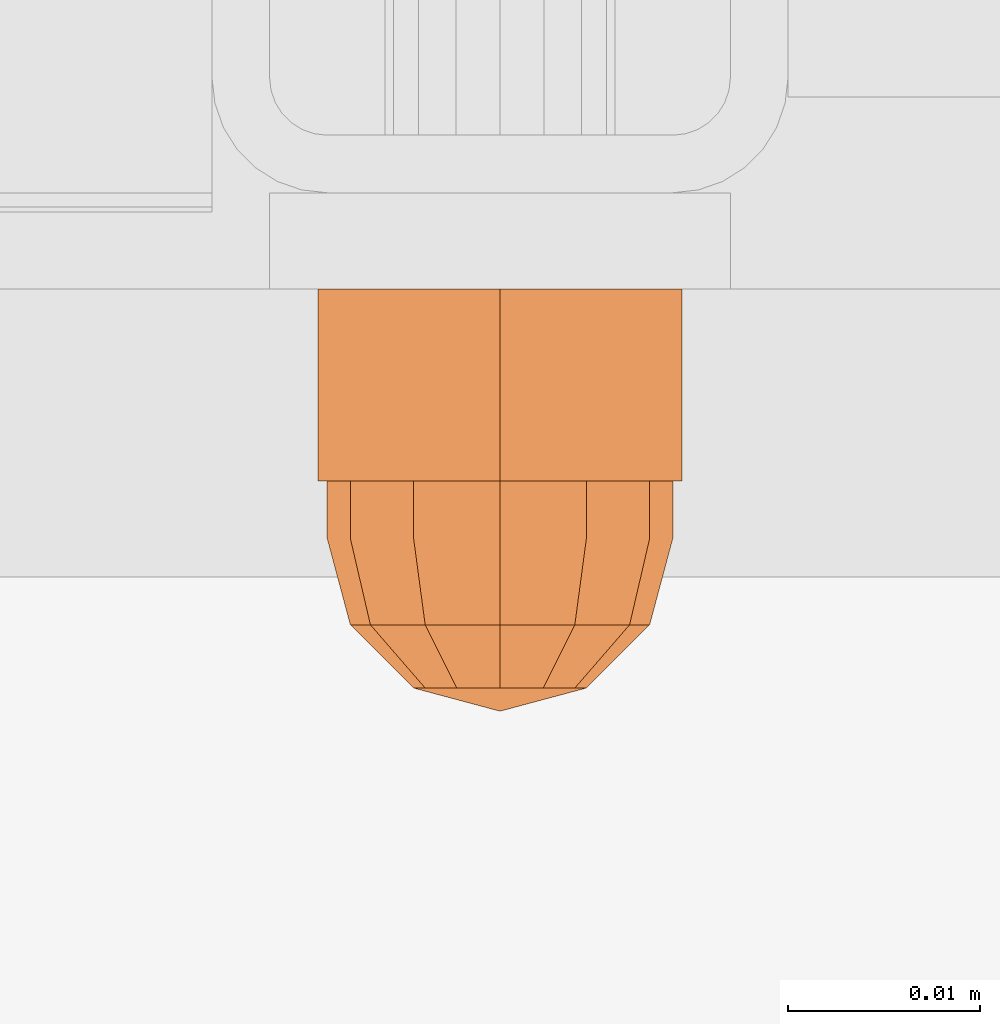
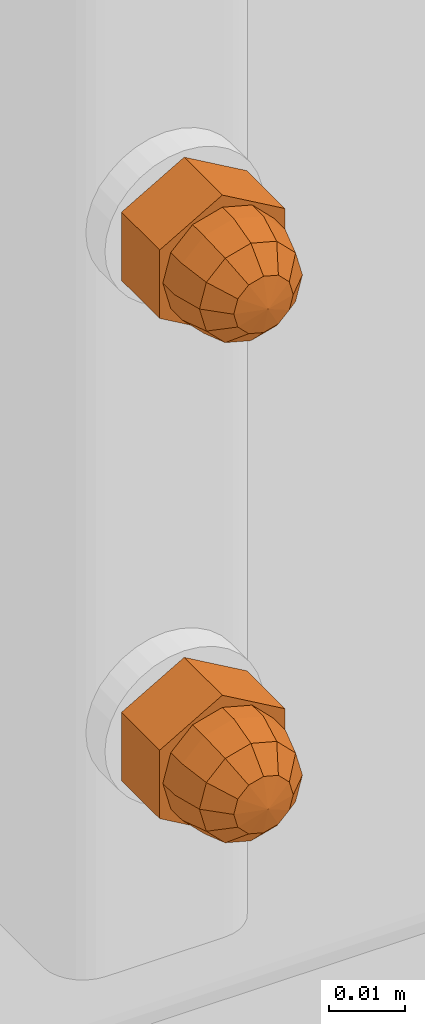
# One storey, part 104 of 162: 2 proxies.
"""IFC2X3 building model written with IfcOpenShell, lengths in millimetres."""

from ifc_helpers import new_model, entity, si_unit, converted_unit, origin_with_axes, place, context, project, spatial, faceted_brep, material, element, save


model = new_model("IFC2X3")

# Units and contexts
model_context = context("Model", 3, precision=1e-09, world=origin_with_axes())
ifc_project = project(units=[si_unit("LENGTHUNIT", "METRE", prefix="MILLI"), si_unit("AREAUNIT", "SQUARE_METRE"), si_unit("VOLUMEUNIT", "CUBIC_METRE"), converted_unit("PLANEANGLEUNIT", "DEGREE", entity("IfcPlaneAngleMeasure", 0.01745329), si_unit("PLANEANGLEUNIT", "RADIAN"), dimensions=[0, 0, 0, 0, 0, 0, 0])], contexts=[model_context])

# Site, building, storey
site_placement = place(None, origin_with_axes())
site = spatial("IfcSite", under=ifc_project, at=site_placement, Name="Hermannstra?e 1a, 60318 Frankfurt", CompositionType="ELEMENT")
building_placement = place(site_placement, origin_with_axes())
building = spatial("IfcBuilding", under=site, at=building_placement, Name="Struktur 1", CompositionType="ELEMENT")
storey_placement = place(building_placement, origin_with_axes())
storey = spatial("IfcBuildingStorey", under=building, at=storey_placement, Name="Default Storey", CompositionType="ELEMENT", Elevation=0.0)

# Proxies
ifc_material = material(Name="Kein")
proxy_1_placement = place(None, origin_with_axes())
element("IfcBuildingElementProxy", 1, at=proxy_1_placement, inside=storey, material=ifc_material, ObjectType="-", context=model_context, shape_type="Brep", body=[
    faceted_brep([(2597.30936482, 1490.609373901, 15176.999), (2597.30936482, 1480.609373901, 15176.999), (2598.113212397, 1480.609373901, 15173.999), (2598.113212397, 1490.609373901, 15173.999), (2600.30936482, 1480.609373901, 15171.802847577), (2600.30936482, 1490.609373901, 15171.802847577), (2598.113212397, 1490.609373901, 15179.999), (2598.113212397, 1480.609373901, 15179.999), (2593.829495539, 1490.609373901, 15182.472205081), (2603.30936482, 1490.609373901, 15187.945410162), (2612.7892341, 1490.609373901, 15182.472205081), (2612.7892341, 1490.609373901, 15171.525794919), (2603.30936482, 1490.609373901, 15166.052589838), (2593.829495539, 1490.609373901, 15171.525794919), (2600.30936482, 1490.609373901, 15182.195152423), (2603.30936482, 1490.609373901, 15170.999), (2606.30936482, 1490.609373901, 15171.802847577), (2608.505517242, 1490.609373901, 15173.999), (2609.30936482, 1490.609373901, 15176.999), (2608.505517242, 1490.609373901, 15179.999), (2606.30936482, 1490.609373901, 15182.195152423), (2603.30936482, 1490.609373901, 15182.999), (2603.30936482, 1480.609373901, 15187.945410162), (2593.829495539, 1480.609373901, 15182.472205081), (2593.829495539, 1480.609373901, 15171.525794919), (2603.30936482, 1480.609373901, 15166.052589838), (2612.7892341, 1480.609373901, 15171.525794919), (2612.7892341, 1480.609373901, 15182.472205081), (2600.30936482, 1480.609373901, 15182.195152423), (2603.30936482, 1480.609373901, 15182.999), (2606.30936482, 1480.609373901, 15182.195152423), (2608.505517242, 1480.609373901, 15179.999), (2609.30936482, 1480.609373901, 15176.999), (2608.505517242, 1480.609373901, 15173.999), (2606.30936482, 1480.609373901, 15171.802847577), (2603.30936482, 1480.609373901, 15170.999)], [[[0, 1, 2, 3]], [[3, 2, 4, 5]], [[1, 0, 6, 7]], [[8, 9, 10, 11, 12, 13], [14, 6, 0, 3, 5, 15, 16, 17, 18, 19, 20, 21]], [[22, 23, 24, 25, 26, 27], [1, 7, 28, 29, 30, 31, 32, 33, 34, 35, 4, 2]], [[7, 6, 14, 28]], [[24, 23, 8, 13]], [[5, 4, 35, 15]], [[13, 12, 25, 24]], [[28, 14, 21, 29]], [[23, 22, 9, 8]], [[15, 35, 34, 16]], [[12, 11, 26, 25]], [[29, 21, 20, 30]], [[22, 27, 10, 9]], [[16, 34, 33, 17]], [[27, 26, 11, 10]], [[30, 20, 19, 31]], [[17, 33, 32, 18]], [[31, 19, 18, 32]]]),
    faceted_brep([(2603.30936482, 1480.609373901, 15185.999), (2603.30936482, 1477.609373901, 15185.999), (2607.80936482, 1477.609373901, 15184.793228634), (2607.80936482, 1480.609373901, 15184.793228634), (2598.80936482, 1480.609373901, 15184.793228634), (2598.80936482, 1477.609373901, 15184.793228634), (2595.515136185, 1477.609373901, 15172.499), (2598.80936482, 1477.609373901, 15169.204771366), (2603.30936482, 1477.609373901, 15167.999), (2607.80936482, 1477.609373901, 15169.204771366), (2611.103593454, 1477.609373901, 15172.499), (2612.30936482, 1477.609373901, 15176.999), (2611.103593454, 1477.609373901, 15181.499), (2595.515136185, 1477.609373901, 15181.499), (2594.30936482, 1477.609373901, 15176.999), (2611.103593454, 1480.609373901, 15172.499), (2607.80936482, 1480.609373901, 15169.204771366), (2603.30936482, 1480.609373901, 15167.999), (2598.80936482, 1480.609373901, 15169.204771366), (2595.515136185, 1480.609373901, 15172.499), (2594.30936482, 1480.609373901, 15176.999), (2595.515136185, 1480.609373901, 15181.499), (2611.103593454, 1480.609373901, 15181.499), (2612.30936482, 1480.609373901, 15176.999)], [[[0, 1, 2, 3]], [[1, 0, 4, 5]], [[6, 7, 8, 9, 10, 11, 12, 2, 1, 5, 13, 14]], [[15, 16, 17, 18, 19, 20, 21, 4, 0, 3, 22, 23]], [[3, 2, 12, 22]], [[5, 4, 21, 13]], [[22, 12, 11, 23]], [[13, 21, 20, 14]], [[7, 18, 17, 8]], [[19, 6, 14, 20]], [[18, 7, 6, 19]], [[23, 11, 10, 15]], [[8, 17, 16, 9]], [[15, 10, 9, 16]]]),
    faceted_brep([(2595.515136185, 1477.609373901, 15181.499), (2596.55936482, 1473.109373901, 15180.896114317), (2599.412250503, 1473.109373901, 15183.749), (2598.80936482, 1477.609373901, 15184.793228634), (2611.103593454, 1477.609373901, 15172.499), (2607.80936482, 1477.609373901, 15169.204771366), (2603.30936482, 1477.609373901, 15167.999), (2598.80936482, 1477.609373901, 15169.204771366), (2595.515136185, 1477.609373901, 15172.499), (2594.30936482, 1477.609373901, 15176.999), (2603.30936482, 1477.609373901, 15185.999), (2607.80936482, 1477.609373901, 15184.793228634), (2611.103593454, 1477.609373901, 15181.499), (2612.30936482, 1477.609373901, 15176.999), (2603.30936482, 1473.109373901, 15184.793228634), (2595.515136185, 1473.109373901, 15176.999), (2598.80936482, 1469.815145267, 15176.999), (2599.412250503, 1469.815145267, 15179.249), (2607.206479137, 1473.109373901, 15183.749), (2601.05936482, 1469.815145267, 15180.896114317), (2596.55936482, 1473.109373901, 15173.101885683), (2599.412250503, 1469.815145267, 15174.749), (2603.30936482, 1469.815145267, 15181.499), (2603.30936482, 1468.609373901, 15176.999), (2599.412250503, 1473.109373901, 15170.249), (2601.05936482, 1469.815145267, 15173.101885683), (2603.30936482, 1473.109373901, 15169.204771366), (2610.05936482, 1473.109373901, 15180.896114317), (2605.55936482, 1469.815145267, 15180.896114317), (2603.30936482, 1469.815145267, 15172.499), (2607.206479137, 1473.109373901, 15170.249), (2605.55936482, 1469.815145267, 15173.101885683), (2611.103593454, 1473.109373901, 15176.999), (2607.206479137, 1469.815145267, 15179.249), (2610.05936482, 1473.109373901, 15173.101885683), (2607.206479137, 1469.815145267, 15174.749), (2607.80936482, 1469.815145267, 15176.999)], [[[0, 1, 2, 3]], [[4, 5, 6, 7, 8, 9, 0, 3, 10, 11, 12, 13]], [[3, 2, 14, 10]], [[15, 16, 17, 1]], [[1, 0, 9, 15]], [[10, 14, 18, 11]], [[1, 17, 19, 2]], [[16, 15, 20, 21]], [[2, 19, 22, 14]], [[23, 17, 16]], [[24, 25, 21, 20]], [[23, 16, 21]], [[24, 7, 6, 26]], [[20, 8, 7, 24]], [[15, 9, 8, 20]], [[11, 18, 27, 12]], [[14, 22, 28, 18]], [[23, 19, 17]], [[26, 29, 25, 24]], [[23, 21, 25]], [[23, 22, 19]], [[26, 6, 5, 30]], [[29, 26, 30, 31]], [[23, 25, 29]], [[12, 27, 32, 13]], [[18, 28, 33, 27]], [[23, 28, 22]], [[23, 29, 31]], [[23, 33, 28]], [[30, 5, 4, 34]], [[31, 30, 34, 35]], [[23, 31, 35]], [[13, 32, 34, 4]], [[27, 33, 36, 32]], [[23, 36, 33]], [[23, 35, 36]], [[35, 34, 32, 36]]]),
])
proxy_2_placement = place(None, origin_with_axes())
element("IfcBuildingElementProxy", 2, at=proxy_2_placement, inside=storey, material=ifc_material, ObjectType="-", context=model_context, shape_type="Brep", body=[
    faceted_brep([(2597.30936482, 1490.609373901, 15096.999), (2597.30936482, 1480.609373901, 15096.999), (2598.113212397, 1480.609373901, 15093.999), (2598.113212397, 1490.609373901, 15093.999), (2600.30936482, 1480.609373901, 15091.802847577), (2600.30936482, 1490.609373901, 15091.802847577), (2598.113212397, 1490.609373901, 15099.999), (2598.113212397, 1480.609373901, 15099.999), (2593.829495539, 1490.609373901, 15102.472205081), (2603.30936482, 1490.609373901, 15107.945410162), (2612.7892341, 1490.609373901, 15102.472205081), (2612.7892341, 1490.609373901, 15091.525794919), (2603.30936482, 1490.609373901, 15086.052589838), (2593.829495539, 1490.609373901, 15091.525794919), (2600.30936482, 1490.609373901, 15102.195152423), (2603.30936482, 1490.609373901, 15090.999), (2606.30936482, 1490.609373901, 15091.802847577), (2608.505517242, 1490.609373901, 15093.999), (2609.30936482, 1490.609373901, 15096.999), (2608.505517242, 1490.609373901, 15099.999), (2606.30936482, 1490.609373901, 15102.195152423), (2603.30936482, 1490.609373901, 15102.999), (2603.30936482, 1480.609373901, 15107.945410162), (2593.829495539, 1480.609373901, 15102.472205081), (2593.829495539, 1480.609373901, 15091.525794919), (2603.30936482, 1480.609373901, 15086.052589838), (2612.7892341, 1480.609373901, 15091.525794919), (2612.7892341, 1480.609373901, 15102.472205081), (2600.30936482, 1480.609373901, 15102.195152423), (2603.30936482, 1480.609373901, 15102.999), (2606.30936482, 1480.609373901, 15102.195152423), (2608.505517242, 1480.609373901, 15099.999), (2609.30936482, 1480.609373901, 15096.999), (2608.505517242, 1480.609373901, 15093.999), (2606.30936482, 1480.609373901, 15091.802847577), (2603.30936482, 1480.609373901, 15090.999)], [[[0, 1, 2, 3]], [[3, 2, 4, 5]], [[1, 0, 6, 7]], [[8, 9, 10, 11, 12, 13], [14, 6, 0, 3, 5, 15, 16, 17, 18, 19, 20, 21]], [[22, 23, 24, 25, 26, 27], [1, 7, 28, 29, 30, 31, 32, 33, 34, 35, 4, 2]], [[7, 6, 14, 28]], [[24, 23, 8, 13]], [[5, 4, 35, 15]], [[13, 12, 25, 24]], [[28, 14, 21, 29]], [[23, 22, 9, 8]], [[15, 35, 34, 16]], [[12, 11, 26, 25]], [[29, 21, 20, 30]], [[22, 27, 10, 9]], [[16, 34, 33, 17]], [[27, 26, 11, 10]], [[30, 20, 19, 31]], [[17, 33, 32, 18]], [[31, 19, 18, 32]]]),
    faceted_brep([(2603.30936482, 1480.609373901, 15105.999), (2603.30936482, 1477.609373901, 15105.999), (2607.80936482, 1477.609373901, 15104.793228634), (2607.80936482, 1480.609373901, 15104.793228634), (2598.80936482, 1480.609373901, 15104.793228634), (2598.80936482, 1477.609373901, 15104.793228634), (2595.515136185, 1477.609373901, 15092.499), (2598.80936482, 1477.609373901, 15089.204771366), (2603.30936482, 1477.609373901, 15087.999), (2607.80936482, 1477.609373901, 15089.204771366), (2611.103593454, 1477.609373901, 15092.499), (2612.30936482, 1477.609373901, 15096.999), (2611.103593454, 1477.609373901, 15101.499), (2595.515136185, 1477.609373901, 15101.499), (2594.30936482, 1477.609373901, 15096.999), (2611.103593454, 1480.609373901, 15092.499), (2607.80936482, 1480.609373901, 15089.204771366), (2603.30936482, 1480.609373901, 15087.999), (2598.80936482, 1480.609373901, 15089.204771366), (2595.515136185, 1480.609373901, 15092.499), (2594.30936482, 1480.609373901, 15096.999), (2595.515136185, 1480.609373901, 15101.499), (2611.103593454, 1480.609373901, 15101.499), (2612.30936482, 1480.609373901, 15096.999)], [[[0, 1, 2, 3]], [[1, 0, 4, 5]], [[6, 7, 8, 9, 10, 11, 12, 2, 1, 5, 13, 14]], [[15, 16, 17, 18, 19, 20, 21, 4, 0, 3, 22, 23]], [[3, 2, 12, 22]], [[5, 4, 21, 13]], [[22, 12, 11, 23]], [[13, 21, 20, 14]], [[7, 18, 17, 8]], [[19, 6, 14, 20]], [[18, 7, 6, 19]], [[23, 11, 10, 15]], [[8, 17, 16, 9]], [[15, 10, 9, 16]]]),
    faceted_brep([(2595.515136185, 1477.609373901, 15101.499), (2596.55936482, 1473.109373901, 15100.896114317), (2599.412250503, 1473.109373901, 15103.749), (2598.80936482, 1477.609373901, 15104.793228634), (2611.103593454, 1477.609373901, 15092.499), (2607.80936482, 1477.609373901, 15089.204771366), (2603.30936482, 1477.609373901, 15087.999), (2598.80936482, 1477.609373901, 15089.204771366), (2595.515136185, 1477.609373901, 15092.499), (2594.30936482, 1477.609373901, 15096.999), (2603.30936482, 1477.609373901, 15105.999), (2607.80936482, 1477.609373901, 15104.793228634), (2611.103593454, 1477.609373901, 15101.499), (2612.30936482, 1477.609373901, 15096.999), (2603.30936482, 1473.109373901, 15104.793228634), (2595.515136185, 1473.109373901, 15096.999), (2598.80936482, 1469.815145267, 15096.999), (2599.412250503, 1469.815145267, 15099.249), (2607.206479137, 1473.109373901, 15103.749), (2601.05936482, 1469.815145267, 15100.896114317), (2596.55936482, 1473.109373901, 15093.101885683), (2599.412250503, 1469.815145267, 15094.749), (2603.30936482, 1469.815145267, 15101.499), (2603.30936482, 1468.609373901, 15096.999), (2599.412250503, 1473.109373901, 15090.249), (2601.05936482, 1469.815145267, 15093.101885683), (2603.30936482, 1473.109373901, 15089.204771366), (2610.05936482, 1473.109373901, 15100.896114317), (2605.55936482, 1469.815145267, 15100.896114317), (2603.30936482, 1469.815145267, 15092.499), (2607.206479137, 1473.109373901, 15090.249), (2605.55936482, 1469.815145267, 15093.101885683), (2611.103593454, 1473.109373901, 15096.999), (2607.206479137, 1469.815145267, 15099.249), (2610.05936482, 1473.109373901, 15093.101885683), (2607.206479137, 1469.815145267, 15094.749), (2607.80936482, 1469.815145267, 15096.999)], [[[0, 1, 2, 3]], [[4, 5, 6, 7, 8, 9, 0, 3, 10, 11, 12, 13]], [[3, 2, 14, 10]], [[15, 16, 17, 1]], [[1, 0, 9, 15]], [[10, 14, 18, 11]], [[1, 17, 19, 2]], [[16, 15, 20, 21]], [[2, 19, 22, 14]], [[23, 17, 16]], [[24, 25, 21, 20]], [[23, 16, 21]], [[24, 7, 6, 26]], [[20, 8, 7, 24]], [[15, 9, 8, 20]], [[11, 18, 27, 12]], [[14, 22, 28, 18]], [[23, 19, 17]], [[26, 29, 25, 24]], [[23, 21, 25]], [[23, 22, 19]], [[26, 6, 5, 30]], [[29, 26, 30, 31]], [[23, 25, 29]], [[12, 27, 32, 13]], [[18, 28, 33, 27]], [[23, 28, 22]], [[23, 29, 31]], [[23, 33, 28]], [[30, 5, 4, 34]], [[31, 30, 34, 35]], [[23, 31, 35]], [[13, 32, 34, 4]], [[27, 33, 36, 32]], [[23, 36, 33]], [[23, 35, 36]], [[35, 34, 32, 36]]]),
])

save(model, "model.ifc")
